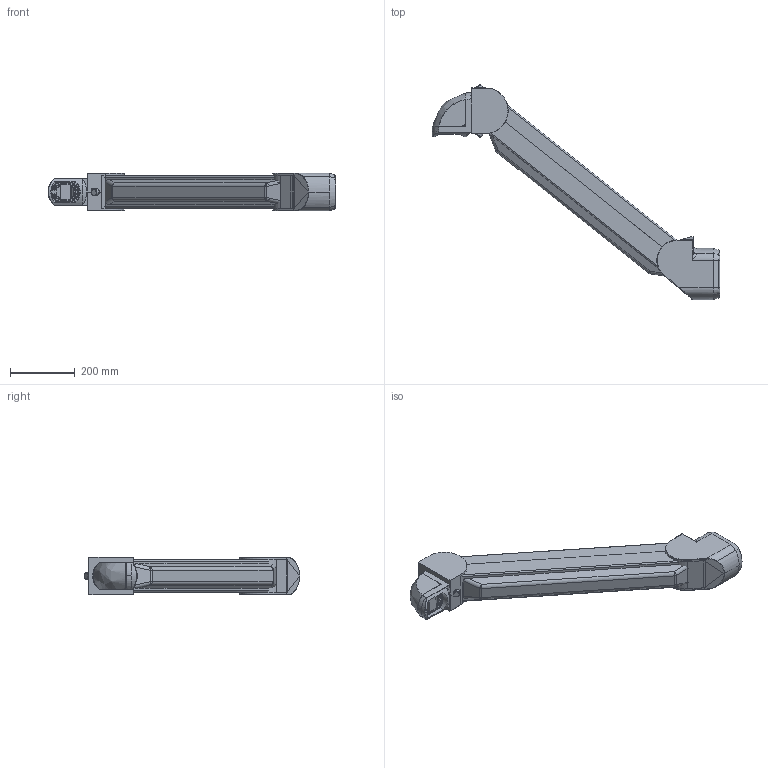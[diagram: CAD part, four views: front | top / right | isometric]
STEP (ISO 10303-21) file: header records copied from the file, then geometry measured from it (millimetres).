
FILE_DESCRIPTION((''),'2;1');
FILE_NAME('SCE-SAHCB97T132_ASM','2022-04-18T09:26:30',('dougp'),('SAGINAW CONTROL & ENGINEERING'),'CREO PARAMETRIC BY PTC INC, 2021284','CREO PARAMETRIC BY PTC INC, 2021284','');
FILE_SCHEMA(('AUTOMOTIVE_DESIGN { 1 0 10303 214 1 1 1 1 }'));
Products named in the file (12): 98072_R-1-SOLID1_1; 98072_R-1-SOLID4_1; NONE-6237_1; 98021_R-1-SOLID1_1; 98020_R-1-SOLID1_1; 98072_R-1-SOLID2_1; 12087_R-1-SOLID1_1; 93403_R-1-SOLID1_1; NONE-38930_1; NONE-39768_1; 98072_R-1-SOLID3_1; SCE-SAHCB97T132_ASM
Assembly tree (11 placements, depth 2):
  SCE-SAHCB97T132_ASM
    98072_R-1-SOLID1_1
    98072_R-1-SOLID4_1
    NONE-6237_1
    98021_R-1-SOLID1_1
    98020_R-1-SOLID1_1
    98072_R-1-SOLID2_1
    12087_R-1-SOLID1_1
    93403_R-1-SOLID1_1
    NONE-38930_1
    NONE-39768_1
    98072_R-1-SOLID3_1
Bounding box: 887.12 x 664.19 x 116 mm (x, y, z)
Volume: 15629720.5 mm3; surface area: 998536.2 mm2
Topology: 13 solids, 27 shells, 1246 faces, 3149 edges, 1912 vertices
Faces by surface type: plane 496, cylinder 328, bspline 155, torus 118, cone 95, sphere 50, extrusion 4
Entity records: 48466 total; most frequent: CARTESIAN_POINT 19109, ORIENTED_EDGE 6180, DIRECTION 5394, EDGE_CURVE 3092, AXIS2_PLACEMENT_3D 1949, VERTEX_POINT 1912, VECTOR 1496, LINE 1492
